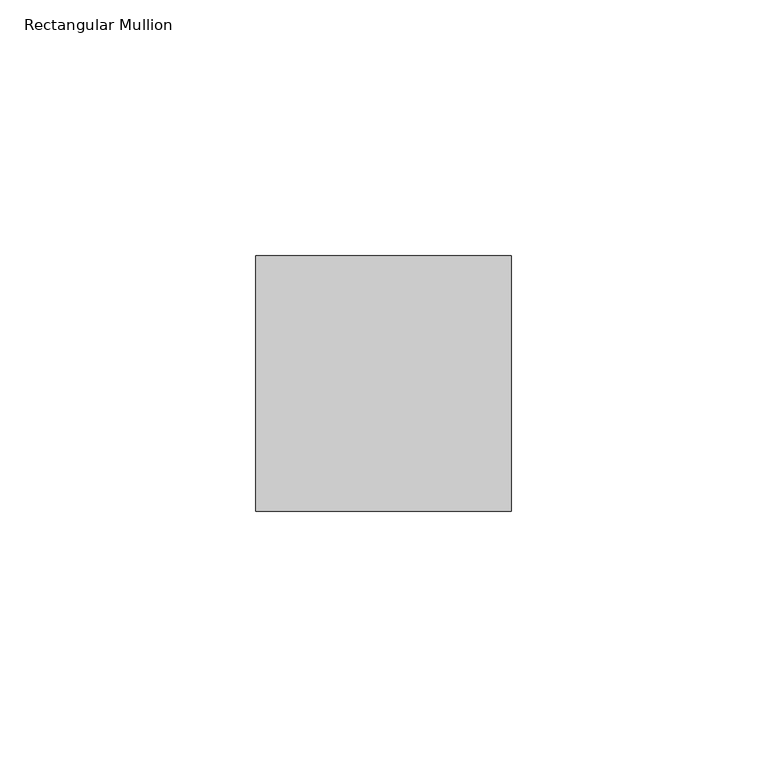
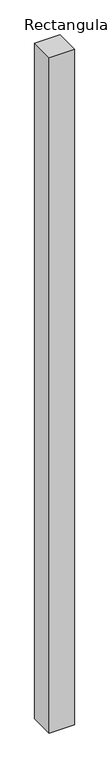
"""IFC4 building model written with IfcOpenShell, lengths in millimetres: member geometry, Rectangular Mullion : Mullion_Curtain Wall_Generic Showcase_50x50mm."""

from ifc_helpers import new_model, si_unit, frame, origin, place, context, project, spatial, polyline, outline, extrude, source, transform, mapped, element, save


def rectangular_mullion_99b38e0a(model_context):
    return source(origin(), model_context, "Body", "SweptSolid", [
        extrude(outline(polyline([(0.0, 0.0), (0.0, -50.0), (-50.0, -50.0), (-50.0, 0.0), (0.0, 0.0)])), frame((0.0, 0.0, -1419.45347), z_axis=(0.0, 0.0, 1.0), x_axis=(1.0, 0.0, 0.0)), (0.0, 0.0, 1.0), 1419.45347),
    ])


if __name__ == "__main__":
    model = new_model("IFC4")
    model_context = context("Model", 3, world=origin())
    ifc_project = project(units=[si_unit("LENGTHUNIT", "METRE", prefix="MILLI")], contexts=[model_context])
    site = spatial("IfcSite", under=ifc_project)
    building = spatial("IfcBuilding", under=site)
    placement = place(None, origin())
    rectangular_mullion_shape = rectangular_mullion_99b38e0a(model_context)
    element("IfcMember", 1, ObjectType="Rectangular Mullion : Mullion_Curtain Wall_Generic Showcase_50x50mm", at=placement, inside=building, context=model_context, shape_type="MappedRepresentation", body=[
        mapped(rectangular_mullion_shape, transform((0.0, 0.0, 0.0), x_axis=(1.0, 0.0, 0.0), y_axis=(0.0, 1.0, 0.0), z_axis=(0.0, 0.0, 1.0))),
    ])
    save(model, "model.ifc")
